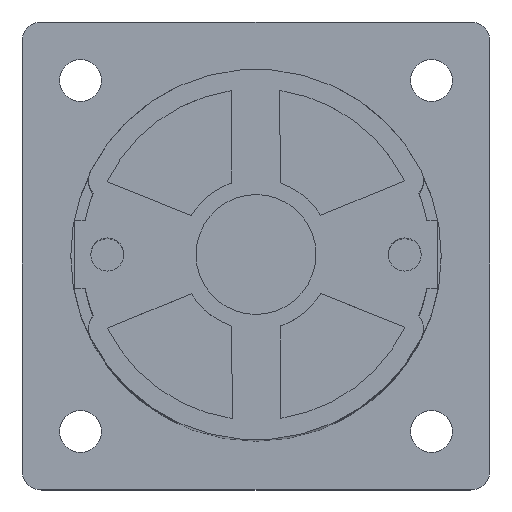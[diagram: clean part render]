
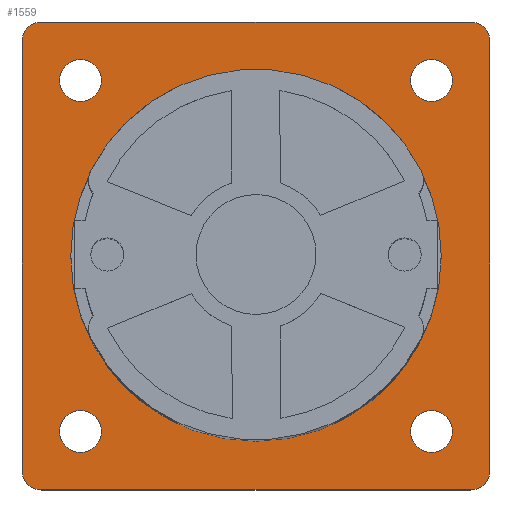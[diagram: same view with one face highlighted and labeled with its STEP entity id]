
A CAD part, top view. The second image highlights one B-rep face of the part: STEP entity #1559.
In plain terms, the highlighted planar face has unit normal (0, 0, 1).
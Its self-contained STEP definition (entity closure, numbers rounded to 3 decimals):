
#401=FACE_BOUND('',#4215,.T.);
#402=FACE_BOUND('',#4216,.T.);
#403=FACE_BOUND('',#4217,.T.);
#404=FACE_BOUND('',#4218,.T.);
#405=FACE_BOUND('',#4219,.T.);
#406=FACE_BOUND('',#4220,.T.);
#698=CIRCLE('',#17964,2.15);
#702=CIRCLE('',#17971,2.15);
#706=CIRCLE('',#17978,2.15);
#710=CIRCLE('',#17985,2.15);
#739=CIRCLE('',#18043,19.);
#784=CIRCLE('',#18138,2.);
#785=CIRCLE('',#18140,2.);
#786=CIRCLE('',#18142,2.);
#787=CIRCLE('',#18144,2.);
#1559=ADVANCED_FACE('',(#401,#402,#403,#404,#405,#406),#2494,.F.);
#2494=PLANE('',#18151);
#4215=EDGE_LOOP('',(#5914,#5915,#5916,#5917,#5918,#5919,#5920,#5921));
#4216=EDGE_LOOP('',(#5922));
#4217=EDGE_LOOP('',(#5923));
#4218=EDGE_LOOP('',(#5924));
#4219=EDGE_LOOP('',(#5925));
#4220=EDGE_LOOP('',(#5926));
#5914=ORIENTED_EDGE('',*,*,#12470,.F.);
#5915=ORIENTED_EDGE('',*,*,#12457,.F.);
#5916=ORIENTED_EDGE('',*,*,#12467,.F.);
#5917=ORIENTED_EDGE('',*,*,#12460,.F.);
#5918=ORIENTED_EDGE('',*,*,#12468,.F.);
#5919=ORIENTED_EDGE('',*,*,#12463,.F.);
#5920=ORIENTED_EDGE('',*,*,#12469,.F.);
#5921=ORIENTED_EDGE('',*,*,#12466,.F.);
#5922=ORIENTED_EDGE('',*,*,#12326,.F.);
#5923=ORIENTED_EDGE('',*,*,#12209,.T.);
#5924=ORIENTED_EDGE('',*,*,#12205,.T.);
#5925=ORIENTED_EDGE('',*,*,#12201,.T.);
#5926=ORIENTED_EDGE('',*,*,#12197,.T.);
#10424=VERTEX_POINT('',#24607);
#10428=VERTEX_POINT('',#24618);
#10432=VERTEX_POINT('',#24629);
#10436=VERTEX_POINT('',#24640);
#10549=VERTEX_POINT('',#24871);
#10638=VERTEX_POINT('',#25139);
#10639=VERTEX_POINT('',#25141);
#10640=VERTEX_POINT('',#25145);
#10641=VERTEX_POINT('',#25147);
#10642=VERTEX_POINT('',#25151);
#10643=VERTEX_POINT('',#25153);
#10644=VERTEX_POINT('',#25157);
#10645=VERTEX_POINT('',#25159);
#12197=EDGE_CURVE('',#10424,#10424,#698,.T.);
#12201=EDGE_CURVE('',#10428,#10428,#702,.T.);
#12205=EDGE_CURVE('',#10432,#10432,#706,.T.);
#12209=EDGE_CURVE('',#10436,#10436,#710,.T.);
#12326=EDGE_CURVE('',#10549,#10549,#739,.T.);
#12457=EDGE_CURVE('',#10639,#10638,#784,.T.);
#12460=EDGE_CURVE('',#10641,#10640,#785,.T.);
#12463=EDGE_CURVE('',#10643,#10642,#786,.T.);
#12466=EDGE_CURVE('',#10645,#10644,#787,.T.);
#12467=EDGE_CURVE('',#10640,#10639,#14832,.T.);
#12468=EDGE_CURVE('',#10642,#10641,#14833,.T.);
#12469=EDGE_CURVE('',#10644,#10643,#14834,.T.);
#12470=EDGE_CURVE('',#10638,#10645,#14835,.T.);
#14832=LINE('',#25162,#16477);
#14833=LINE('',#25164,#16478);
#14834=LINE('',#25166,#16479);
#14835=LINE('',#25168,#16480);
#16477=VECTOR('',#20304,1.);
#16478=VECTOR('',#20307,1.);
#16479=VECTOR('',#20310,1.);
#16480=VECTOR('',#20313,1.);
#17964=AXIS2_PLACEMENT_3D('',#24606,#19788,#19789);
#17971=AXIS2_PLACEMENT_3D('',#24617,#19802,#19803);
#17978=AXIS2_PLACEMENT_3D('',#24628,#19816,#19817);
#17985=AXIS2_PLACEMENT_3D('',#24639,#19830,#19831);
#18043=AXIS2_PLACEMENT_3D('',#24870,#20006,#20007);
#18138=AXIS2_PLACEMENT_3D('',#25142,#20282,#20283);
#18140=AXIS2_PLACEMENT_3D('',#25148,#20288,#20289);
#18142=AXIS2_PLACEMENT_3D('',#25154,#20294,#20295);
#18144=AXIS2_PLACEMENT_3D('',#25160,#20300,#20301);
#18151=AXIS2_PLACEMENT_3D('',#25171,#20318,#20319);
#19788=DIRECTION('',(0.,0.,-1.));
#19789=DIRECTION('',(-1.,0.,0.));
#19802=DIRECTION('',(0.,0.,-1.));
#19803=DIRECTION('',(-1.,0.,0.));
#19816=DIRECTION('',(0.,0.,-1.));
#19817=DIRECTION('',(-1.,0.,0.));
#19830=DIRECTION('',(0.,0.,-1.));
#19831=DIRECTION('',(-1.,0.,0.));
#20006=DIRECTION('',(0.,0.,1.));
#20007=DIRECTION('',(-1.,0.,0.));
#20282=DIRECTION('',(0.,0.,-1.));
#20283=DIRECTION('',(1.,0.,0.));
#20288=DIRECTION('',(0.,0.,-1.));
#20289=DIRECTION('',(1.,0.,0.));
#20294=DIRECTION('',(0.,0.,-1.));
#20295=DIRECTION('',(1.,0.,0.));
#20300=DIRECTION('',(0.,0.,-1.));
#20301=DIRECTION('',(1.,0.,0.));
#20304=DIRECTION('',(0.,-1.,0.));
#20307=DIRECTION('',(1.,0.,0.));
#20310=DIRECTION('',(0.,1.,0.));
#20313=DIRECTION('',(-1.,0.,0.));
#20318=DIRECTION('',(0.,0.,-1.));
#20319=DIRECTION('',(-1.,0.,0.));
#24606=CARTESIAN_POINT('',(18.,-18.,2.5));
#24607=CARTESIAN_POINT('',(15.85,-18.,2.5));
#24617=CARTESIAN_POINT('',(18.,18.,2.5));
#24618=CARTESIAN_POINT('',(15.85,18.,2.5));
#24628=CARTESIAN_POINT('',(-18.,18.,2.5));
#24629=CARTESIAN_POINT('',(-20.15,18.,2.5));
#24639=CARTESIAN_POINT('',(-18.,-18.,2.5));
#24640=CARTESIAN_POINT('',(-20.15,-18.,2.5));
#24870=CARTESIAN_POINT('',(0.,0.,2.5));
#24871=CARTESIAN_POINT('',(-19.,0.,2.5));
#25139=CARTESIAN_POINT('',(22.,-24.,2.5));
#25141=CARTESIAN_POINT('',(24.,-22.,2.5));
#25142=CARTESIAN_POINT('',(22.,-22.,2.5));
#25145=CARTESIAN_POINT('',(24.,22.,2.5));
#25147=CARTESIAN_POINT('',(22.,24.,2.5));
#25148=CARTESIAN_POINT('',(22.,22.,2.5));
#25151=CARTESIAN_POINT('',(-22.,24.,2.5));
#25153=CARTESIAN_POINT('',(-24.,22.,2.5));
#25154=CARTESIAN_POINT('',(-22.,22.,2.5));
#25157=CARTESIAN_POINT('',(-24.,-22.,2.5));
#25159=CARTESIAN_POINT('',(-22.,-24.,2.5));
#25160=CARTESIAN_POINT('',(-22.,-22.,2.5));
#25162=CARTESIAN_POINT('',(24.,22.,2.5));
#25164=CARTESIAN_POINT('',(-22.,24.,2.5));
#25166=CARTESIAN_POINT('',(-24.,-22.,2.5));
#25168=CARTESIAN_POINT('',(22.,-24.,2.5));
#25171=CARTESIAN_POINT('',(-22.,-22.,2.5));
